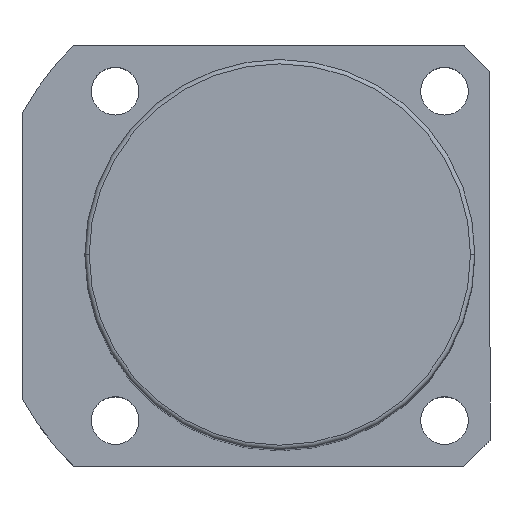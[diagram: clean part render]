
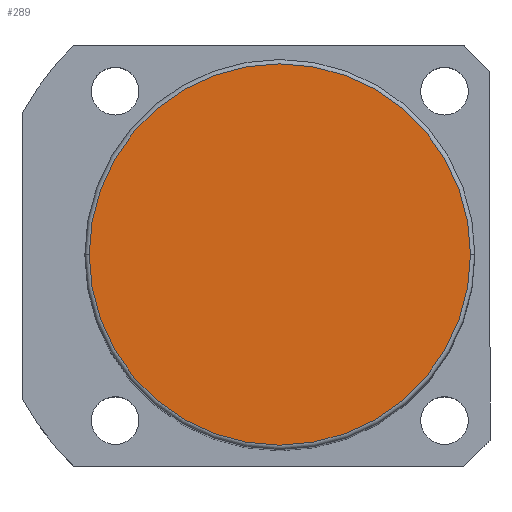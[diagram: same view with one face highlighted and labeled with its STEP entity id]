
A CAD part, top view. The second image highlights one B-rep face of the part: STEP entity #289.
In plain terms, the highlighted planar face has unit normal (0, 0, 1).
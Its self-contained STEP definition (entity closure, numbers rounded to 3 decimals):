
#26 = AXIS2_PLACEMENT_3D ( 'NONE', #802, #1567, #45 ) ;
#45 = DIRECTION ( 'NONE',  ( 1., 0., 0. ) ) ;
#123 = FACE_OUTER_BOUND ( 'NONE', #1035, .T. ) ;
#269 = CARTESIAN_POINT ( 'NONE',  ( 0., 0., 196.5 ) ) ;
#280 = DIRECTION ( 'NONE',  ( 1., 0., 0. ) ) ;
#289 = ADVANCED_FACE ( 'NONE', ( #123 ), #467, .T. ) ;
#311 = ORIENTED_EDGE ( 'NONE', *, *, #611, .T. ) ;
#467 = PLANE ( 'NONE',  #26 ) ;
#543 = CARTESIAN_POINT ( 'NONE',  ( 44., 0., 196.5 ) ) ;
#581 = VERTEX_POINT ( 'NONE', #543 ) ;
#611 = EDGE_CURVE ( 'NONE', #794, #581, #1175, .T. ) ;
#661 = CIRCLE ( 'NONE', #722, 44. ) ;
#706 = DIRECTION ( 'NONE',  ( 1., 0., 0. ) ) ;
#722 = AXIS2_PLACEMENT_3D ( 'NONE', #1041, #1628, #280 ) ;
#794 = VERTEX_POINT ( 'NONE', #1043 ) ;
#802 = CARTESIAN_POINT ( 'NONE',  ( 0., 0., 196.5 ) ) ;
#911 = ORIENTED_EDGE ( 'NONE', *, *, #1798, .T. ) ;
#1029 = AXIS2_PLACEMENT_3D ( 'NONE', #269, #1954, #706 ) ;
#1035 = EDGE_LOOP ( 'NONE', ( #911, #311 ) ) ;
#1041 = CARTESIAN_POINT ( 'NONE',  ( 0., 0., 196.5 ) ) ;
#1043 = CARTESIAN_POINT ( 'NONE',  ( -44., 0., 196.5 ) ) ;
#1175 = CIRCLE ( 'NONE', #1029, 44. ) ;
#1567 = DIRECTION ( 'NONE',  ( 0., 0., 1. ) ) ;
#1628 = DIRECTION ( 'NONE',  ( 0., 0., 1. ) ) ;
#1798 = EDGE_CURVE ( 'NONE', #581, #794, #661, .T. ) ;
#1954 = DIRECTION ( 'NONE',  ( 0., 0., 1. ) ) ;
